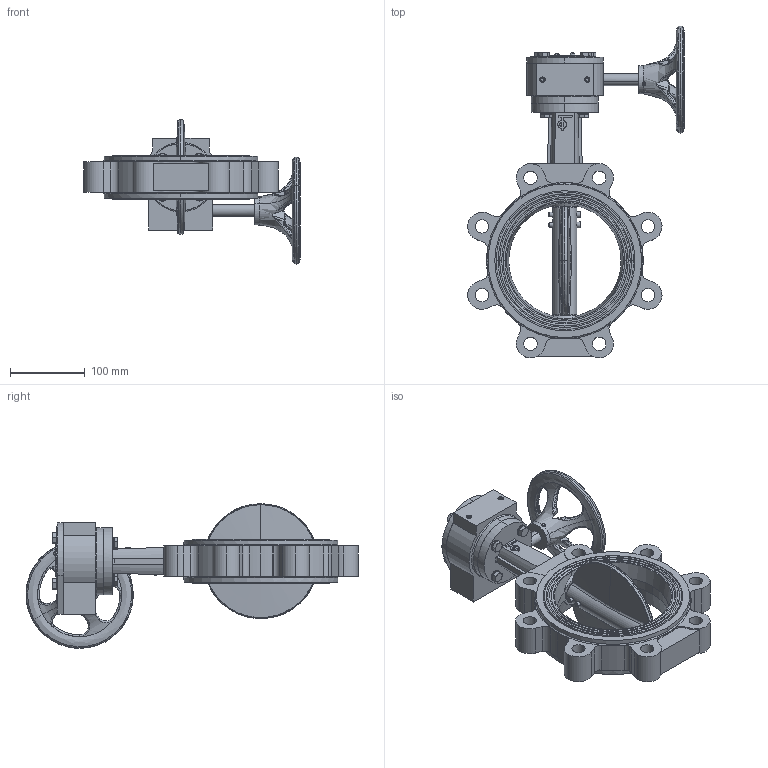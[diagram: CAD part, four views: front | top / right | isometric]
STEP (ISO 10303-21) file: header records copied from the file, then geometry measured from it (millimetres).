
FILE_DESCRIPTION (( 'STEP AP214' ), '1' );
FILE_NAME ('VPG464X-08XX0150.step', '2022-06-30T08:10:52', ( '' ), ( '' ), 'SwSTEP 2.0', 'SolidWorks 2020', '' );
FILE_SCHEMA (( 'AUTOMOTIVE_DESIGN' ));
Length unit declared in the file: millimetre
Products named in the file (1): VPG464X-08XX0150
Bounding box: 290.46 x 445.29 x 194.06 mm (x, y, z)
Surface area: 351025.5 mm2 (no closed solid volume)
Topology: 0 solids, 72 shells, 948 faces, 5886 edges, 4892 vertices
Faces by surface type: plane 465, cylinder 190, bspline 189, cone 100, torus 4
Entity records: 94053 total; most frequent: CARTESIAN_POINT 43072, ORIENTED_EDGE 7865, DIRECTION 6594, EDGE_CURVE 5871, VERTEX_POINT 4892, VECTOR 3514, LINE 3514, AXIS2_PLACEMENT_3D 1540
